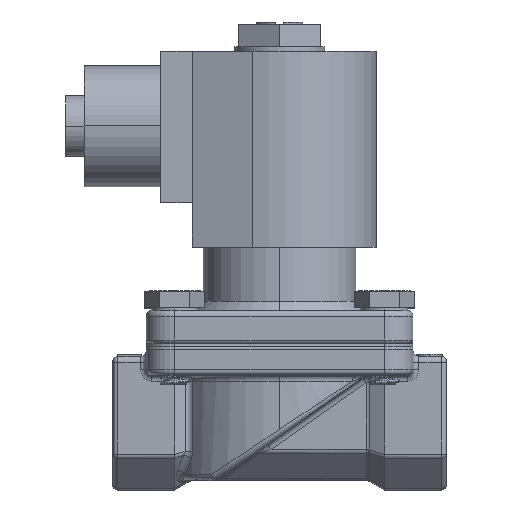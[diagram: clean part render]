
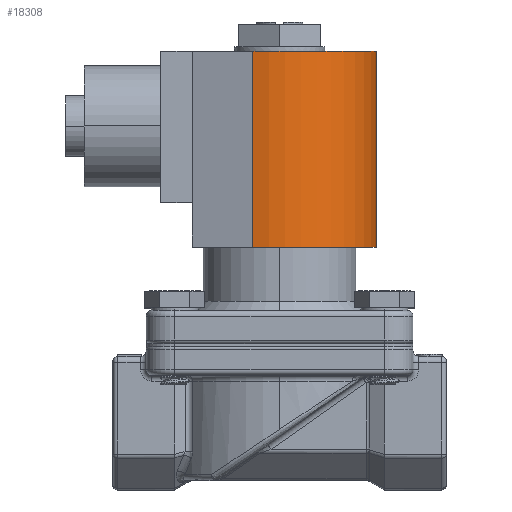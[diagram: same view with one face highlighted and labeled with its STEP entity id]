
A CAD part, top view. The second image highlights one B-rep face of the part: STEP entity #18308.
In plain terms, the highlighted cylindrical face has radius 20.32 mm (diameter 40.64 mm), a partial arc.
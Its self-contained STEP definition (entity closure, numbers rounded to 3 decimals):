
#100 = EDGE_CURVE ( 'NONE', #7690, #8004, #25873, .T. ) ;
#478 = CARTESIAN_POINT ( 'NONE',  ( 20.32, 61.366, 0. ) ) ;
#707 = CARTESIAN_POINT ( 'NONE',  ( -5.608, 61.366, 19.531 ) ) ;
#1203 = VERTEX_POINT ( 'NONE', #707 ) ;
#1446 = CARTESIAN_POINT ( 'NONE',  ( -5.608, 20.218, 19.531 ) ) ;
#2561 = AXIS2_PLACEMENT_3D ( 'NONE', #8126, #17330, #15064 ) ;
#2729 = DIRECTION ( 'NONE',  ( 0., -1., 0. ) ) ;
#4142 = VECTOR ( 'NONE', #28594, 1000. ) ;
#4338 = CARTESIAN_POINT ( 'NONE',  ( 20.32, 61.366, 0. ) ) ;
#7607 = DIRECTION ( 'NONE',  ( -1., 0., 0. ) ) ;
#7690 = VERTEX_POINT ( 'NONE', #1446 ) ;
#8004 = VERTEX_POINT ( 'NONE', #18795 ) ;
#8043 = DIRECTION ( 'NONE',  ( 0., 1., 0. ) ) ;
#8126 = CARTESIAN_POINT ( 'NONE',  ( 0., 61.366, 0. ) ) ;
#10193 = CIRCLE ( 'NONE', #19398, 20.32 ) ;
#10285 = EDGE_CURVE ( 'NONE', #10723, #8004, #27720, .T. ) ;
#10723 = VERTEX_POINT ( 'NONE', #4338 ) ;
#11882 = VECTOR ( 'NONE', #2729, 1000. ) ;
#12468 = LINE ( 'NONE', #26040, #4142 ) ;
#12777 = EDGE_LOOP ( 'NONE', ( #29106, #20000, #26051, #25335 ) ) ;
#14381 = CARTESIAN_POINT ( 'NONE',  ( 0., 20.218, 0. ) ) ;
#14914 = FACE_OUTER_BOUND ( 'NONE', #12777, .T. ) ;
#15064 = DIRECTION ( 'NONE',  ( 1., 0., 0. ) ) ;
#16366 = EDGE_CURVE ( 'NONE', #1203, #10723, #10193, .T. ) ;
#16612 = DIRECTION ( 'NONE',  ( -1., 0., 0. ) ) ;
#17330 = DIRECTION ( 'NONE',  ( 0., -1., 0. ) ) ;
#18308 = ADVANCED_FACE ( 'Defeatured_0_369', ( #14914 ), #23656, .T. ) ;
#18795 = CARTESIAN_POINT ( 'NONE',  ( 20.32, 20.218, 0. ) ) ;
#19398 = AXIS2_PLACEMENT_3D ( 'NONE', #20987, #25176, #16612 ) ;
#20000 = ORIENTED_EDGE ( 'NONE', *, *, #16366, .F. ) ;
#20987 = CARTESIAN_POINT ( 'NONE',  ( 0., 61.366, 0. ) ) ;
#23656 = CYLINDRICAL_SURFACE ( 'NONE', #2561, 20.32 ) ;
#25176 = DIRECTION ( 'NONE',  ( 0., 1., 0. ) ) ;
#25335 = ORIENTED_EDGE ( 'NONE', *, *, #100, .T. ) ;
#25873 = CIRCLE ( 'NONE', #27300, 20.32 ) ;
#26040 = CARTESIAN_POINT ( 'NONE',  ( -5.608, 61.366, 19.531 ) ) ;
#26051 = ORIENTED_EDGE ( 'NONE', *, *, #28396, .T. ) ;
#27300 = AXIS2_PLACEMENT_3D ( 'NONE', #14381, #8043, #7607 ) ;
#27720 = LINE ( 'NONE', #478, #11882 ) ;
#28396 = EDGE_CURVE ( 'NONE', #1203, #7690, #12468, .T. ) ;
#28594 = DIRECTION ( 'NONE',  ( 0., -1., 0. ) ) ;
#29106 = ORIENTED_EDGE ( 'NONE', *, *, #10285, .F. ) ;
